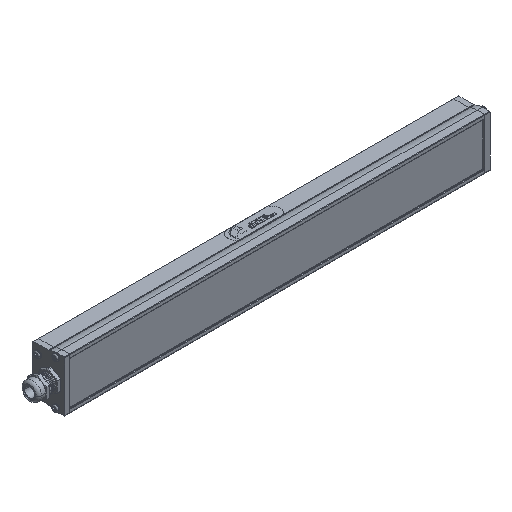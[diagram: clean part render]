
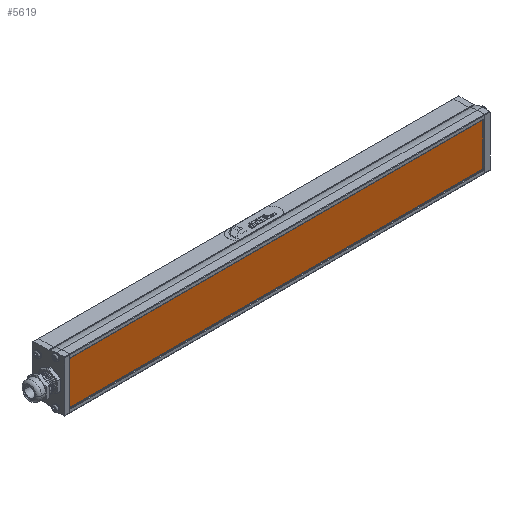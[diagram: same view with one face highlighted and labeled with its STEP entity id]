
A CAD part, isometric view. The second image highlights one B-rep face of the part: STEP entity #5619.
In plain terms, the highlighted planar face has unit normal (0, -1, 0) as drawn and (0, 1, 0) by its records, which use the part's own axes.
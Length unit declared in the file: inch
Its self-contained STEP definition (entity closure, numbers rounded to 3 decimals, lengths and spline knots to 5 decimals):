
#315 = ORIENTED_EDGE ( 'NONE', *, *, #15484, .T. ) ;
#1591 = DIRECTION ( 'NONE',  ( 0., 0., 1. ) ) ;
#2465 = AXIS2_PLACEMENT_3D ( 'NONE', #31435, #16466, #18968 ) ;
#3849 = VECTOR ( 'NONE', #24335, 39.37008 ) ;
#5619 = ADVANCED_FACE ( 'NONE', ( #29775 ), #26763, .T. ) ;
#6519 = EDGE_CURVE ( 'NONE', #23283, #11596, #21891, .T. ) ;
#6664 = CARTESIAN_POINT ( 'NONE',  ( 5.135, 0.03, 0.586 ) ) ;
#8014 = ORIENTED_EDGE ( 'NONE', *, *, #14076, .T. ) ;
#8502 = LINE ( 'NONE', #28716, #21427 ) ;
#8718 = EDGE_CURVE ( 'NONE', #28446, #28450, #17801, .T. ) ;
#11596 = VERTEX_POINT ( 'NONE', #14754 ) ;
#11742 = CARTESIAN_POINT ( 'NONE',  ( -5.135, 0.03, 0.586 ) ) ;
#13669 = ORIENTED_EDGE ( 'NONE', *, *, #8718, .T. ) ;
#14076 = EDGE_CURVE ( 'NONE', #11596, #28446, #24266, .T. ) ;
#14318 = CARTESIAN_POINT ( 'NONE',  ( 5.135, 0.03, -0.586 ) ) ;
#14754 = CARTESIAN_POINT ( 'NONE',  ( -5.135, 0.03, 0.586 ) ) ;
#15484 = EDGE_CURVE ( 'NONE', #28450, #23283, #8502, .T. ) ;
#16033 = DIRECTION ( 'NONE',  ( -1., 0., 0. ) ) ;
#16466 = DIRECTION ( 'NONE',  ( 0., 1., 0. ) ) ;
#17801 = LINE ( 'NONE', #14318, #18168 ) ;
#18168 = VECTOR ( 'NONE', #19549, 39.37008 ) ;
#18968 = DIRECTION ( 'NONE',  ( 0., 0., 1. ) ) ;
#19549 = DIRECTION ( 'NONE',  ( 0., 0., -1. ) ) ;
#21078 = VECTOR ( 'NONE', #1591, 39.37008 ) ;
#21427 = VECTOR ( 'NONE', #16033, 39.37008 ) ;
#21891 = LINE ( 'NONE', #24205, #21078 ) ;
#23283 = VERTEX_POINT ( 'NONE', #25435 ) ;
#24205 = CARTESIAN_POINT ( 'NONE',  ( -5.135, 0.03, -0.586 ) ) ;
#24266 = LINE ( 'NONE', #11742, #3849 ) ;
#24335 = DIRECTION ( 'NONE',  ( 1., 0., 0. ) ) ;
#25435 = CARTESIAN_POINT ( 'NONE',  ( -5.135, 0.03, -0.586 ) ) ;
#26501 = ORIENTED_EDGE ( 'NONE', *, *, #6519, .T. ) ;
#26763 = PLANE ( 'NONE',  #2465 ) ;
#28446 = VERTEX_POINT ( 'NONE', #6664 ) ;
#28450 = VERTEX_POINT ( 'NONE', #31957 ) ;
#28716 = CARTESIAN_POINT ( 'NONE',  ( -5.135, 0.03, -0.586 ) ) ;
#29275 = EDGE_LOOP ( 'NONE', ( #26501, #8014, #13669, #315 ) ) ;
#29775 = FACE_OUTER_BOUND ( 'NONE', #29275, .T. ) ;
#31435 = CARTESIAN_POINT ( 'NONE',  ( -5.135, 0.03, 0.586 ) ) ;
#31957 = CARTESIAN_POINT ( 'NONE',  ( 5.135, 0.03, -0.586 ) ) ;
